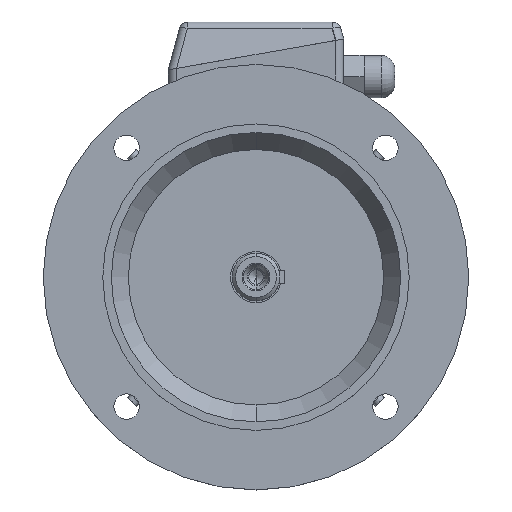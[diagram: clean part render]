
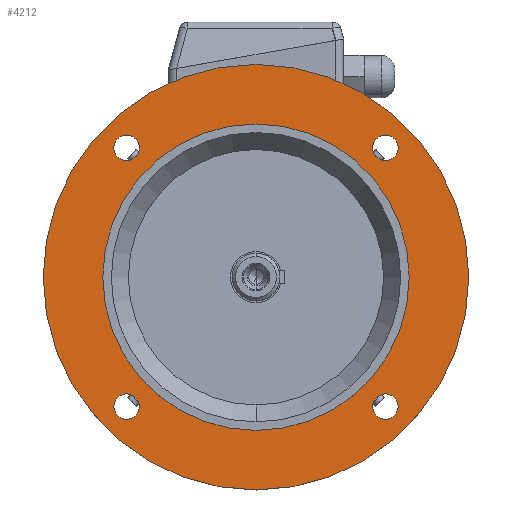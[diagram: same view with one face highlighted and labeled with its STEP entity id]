
A CAD part, top view. The second image highlights one B-rep face of the part: STEP entity #4212.
In plain terms, the highlighted planar face has unit normal (0, 0, 1).
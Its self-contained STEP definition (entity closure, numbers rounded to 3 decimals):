
#29 = FACE_BOUND ( 'NONE', #3948, .T. ) ;
#30 = FACE_BOUND ( 'NONE', #9210, .T. ) ;
#31 = FACE_BOUND ( 'NONE', #8827, .T. ) ;
#32 = FACE_BOUND ( 'NONE', #8430, .T. ) ;
#33 = FACE_BOUND ( 'NONE', #10246, .T. ) ;
#34 = FACE_OUTER_BOUND ( 'NONE', #9827, .T. ) ;
#35 = PLANE ( 'NONE',  #36 ) ;
#36 = AXIS2_PLACEMENT_3D ( 'NONE', #37, #38, #40 ) ;
#37 = CARTESIAN_POINT ( 'NONE',  ( 0., 125., 45. ) ) ;
#38 = DIRECTION ( 'NONE',  ( 0., 0., 1. ) ) ;
#40 = DIRECTION ( 'NONE',  ( 0., -1., 0. ) ) ;
#152 = CARTESIAN_POINT ( 'NONE',  ( -68.514, 76.014, 45. ) ) ;
#237 = CIRCLE ( 'NONE', #238, 7.5 ) ;
#238 = AXIS2_PLACEMENT_3D ( 'NONE', #239, #240, #241 ) ;
#239 = CARTESIAN_POINT ( 'NONE',  ( -76.014, 76.014, 45. ) ) ;
#240 = DIRECTION ( 'NONE',  ( 0., 0., 1. ) ) ;
#241 = DIRECTION ( 'NONE',  ( 1., 0., 0. ) ) ;
#268 = CARTESIAN_POINT ( 'NONE',  ( 0., 90., 45. ) ) ;
#361 = CIRCLE ( 'NONE', #362, 90. ) ;
#362 = AXIS2_PLACEMENT_3D ( 'NONE', #363, #367, #368 ) ;
#363 = CARTESIAN_POINT ( 'NONE',  ( 0., 0., 45. ) ) ;
#367 = DIRECTION ( 'NONE',  ( 0., 0., -1. ) ) ;
#368 = DIRECTION ( 'NONE',  ( 0., 1., 0. ) ) ;
#709 = CARTESIAN_POINT ( 'NONE',  ( -83.514, 76.014, 45. ) ) ;
#833 = CARTESIAN_POINT ( 'NONE',  ( 0., -90., 45. ) ) ;
#895 = CIRCLE ( 'NONE', #896, 125. ) ;
#896 = AXIS2_PLACEMENT_3D ( 'NONE', #897, #898, #899 ) ;
#897 = CARTESIAN_POINT ( 'NONE',  ( 0., 0., 45. ) ) ;
#898 = DIRECTION ( 'NONE',  ( 0., 0., -1. ) ) ;
#899 = DIRECTION ( 'NONE',  ( 0., 1., 0. ) ) ;
#2375 = CARTESIAN_POINT ( 'NONE',  ( 83.514, 76.014, 45. ) ) ;
#2651 = CIRCLE ( 'NONE', #2652, 7.5 ) ;
#2652 = AXIS2_PLACEMENT_3D ( 'NONE', #2653, #2654, #2655 ) ;
#2653 = CARTESIAN_POINT ( 'NONE',  ( 76.014, 76.014, 45. ) ) ;
#2654 = DIRECTION ( 'NONE',  ( 0., 0., 1. ) ) ;
#2655 = DIRECTION ( 'NONE',  ( 1., 0., 0. ) ) ;
#3519 = CARTESIAN_POINT ( 'NONE',  ( -68.514, -76.014, 45. ) ) ;
#3779 = CIRCLE ( 'NONE', #3780, 7.5 ) ;
#3780 = AXIS2_PLACEMENT_3D ( 'NONE', #3781, #3782, #3783 ) ;
#3781 = CARTESIAN_POINT ( 'NONE',  ( -76.014, -76.014, 45. ) ) ;
#3782 = DIRECTION ( 'NONE',  ( 0., 0., 1. ) ) ;
#3783 = DIRECTION ( 'NONE',  ( 1., 0., 0. ) ) ;
#3948 = EDGE_LOOP ( 'NONE', ( #9473, #9262 ) ) ;
#4087 = CIRCLE ( 'NONE', #4088, 7.5 ) ;
#4088 = AXIS2_PLACEMENT_3D ( 'NONE', #4089, #4090, #4091 ) ;
#4089 = CARTESIAN_POINT ( 'NONE',  ( 76.014, -76.014, 45. ) ) ;
#4090 = DIRECTION ( 'NONE',  ( 0., 0., 1. ) ) ;
#4091 = DIRECTION ( 'NONE',  ( 1., 0., 0. ) ) ;
#4212 = ADVANCED_FACE ( 'NONE', ( #29, #30, #31, #32, #33, #34 ), #35, .T. ) ;
#4384 = VERTEX_POINT ( 'NONE', #152 ) ;
#4585 = CARTESIAN_POINT ( 'NONE',  ( -83.514, -76.014, 45. ) ) ;
#4624 = EDGE_CURVE ( 'NONE', #5616, #4384, #237, .T. ) ;
#4649 = VERTEX_POINT ( 'NONE', #268 ) ;
#4892 = EDGE_CURVE ( 'NONE', #4649, #5878, #361, .T. ) ;
#5078 = CARTESIAN_POINT ( 'NONE',  ( 83.514, -76.014, 45. ) ) ;
#5102 = CIRCLE ( 'NONE', #5103, 7.5 ) ;
#5103 = AXIS2_PLACEMENT_3D ( 'NONE', #5104, #5105, #5106 ) ;
#5104 = CARTESIAN_POINT ( 'NONE',  ( -76.014, -76.014, 45. ) ) ;
#5105 = DIRECTION ( 'NONE',  ( 0., 0., 1. ) ) ;
#5106 = DIRECTION ( 'NONE',  ( 1., 0., 0. ) ) ;
#5282 = CARTESIAN_POINT ( 'NONE',  ( 0., -125., 45. ) ) ;
#5392 = CARTESIAN_POINT ( 'NONE',  ( 0., 125., 45. ) ) ;
#5487 = CIRCLE ( 'NONE', #5488, 125. ) ;
#5488 = AXIS2_PLACEMENT_3D ( 'NONE', #5489, #5490, #5491 ) ;
#5489 = CARTESIAN_POINT ( 'NONE',  ( 0., 0., 45. ) ) ;
#5490 = DIRECTION ( 'NONE',  ( 0., 0., -1. ) ) ;
#5491 = DIRECTION ( 'NONE',  ( 0., 1., 0. ) ) ;
#5616 = VERTEX_POINT ( 'NONE', #709 ) ;
#5878 = VERTEX_POINT ( 'NONE', #833 ) ;
#5904 = CIRCLE ( 'NONE', #5905, 7.5 ) ;
#5905 = AXIS2_PLACEMENT_3D ( 'NONE', #5906, #5907, #5908 ) ;
#5906 = CARTESIAN_POINT ( 'NONE',  ( -76.014, 76.014, 45. ) ) ;
#5907 = DIRECTION ( 'NONE',  ( 0., 0., 1. ) ) ;
#5908 = DIRECTION ( 'NONE',  ( 1., 0., 0. ) ) ;
#5978 = EDGE_CURVE ( 'NONE', #9079, #9136, #895, .T. ) ;
#6235 = CIRCLE ( 'NONE', #6236, 7.5 ) ;
#6236 = AXIS2_PLACEMENT_3D ( 'NONE', #6237, #6238, #6239 ) ;
#6237 = CARTESIAN_POINT ( 'NONE',  ( 76.014, -76.014, 45. ) ) ;
#6238 = DIRECTION ( 'NONE',  ( 0., 0., 1. ) ) ;
#6239 = DIRECTION ( 'NONE',  ( 1., 0., 0. ) ) ;
#6423 = CARTESIAN_POINT ( 'NONE',  ( 68.514, 76.014, 45. ) ) ;
#6659 = CARTESIAN_POINT ( 'NONE',  ( 68.514, -76.014, 45. ) ) ;
#6985 = CIRCLE ( 'NONE', #6986, 90. ) ;
#6986 = AXIS2_PLACEMENT_3D ( 'NONE', #6987, #6988, #6989 ) ;
#6987 = CARTESIAN_POINT ( 'NONE',  ( 0., 0., 45. ) ) ;
#6988 = DIRECTION ( 'NONE',  ( 0., 0., -1. ) ) ;
#6989 = DIRECTION ( 'NONE',  ( 0., 1., 0. ) ) ;
#8166 = CIRCLE ( 'NONE', #8167, 7.5 ) ;
#8167 = AXIS2_PLACEMENT_3D ( 'NONE', #8168, #8169, #8170 ) ;
#8168 = CARTESIAN_POINT ( 'NONE',  ( 76.014, 76.014, 45. ) ) ;
#8169 = DIRECTION ( 'NONE',  ( 0., 0., 1. ) ) ;
#8170 = DIRECTION ( 'NONE',  ( 1., 0., 0. ) ) ;
#8430 = EDGE_LOOP ( 'NONE', ( #10512, #10307 ) ) ;
#8498 = ORIENTED_EDGE ( 'NONE', *, *, #9534, .F. ) ;
#8504 = VERTEX_POINT ( 'NONE', #3519 ) ;
#8552 = EDGE_CURVE ( 'NONE', #8761, #8504, #3779, .T. ) ;
#8626 = EDGE_CURVE ( 'NONE', #8991, #9736, #4087, .T. ) ;
#8712 = ORIENTED_EDGE ( 'NONE', *, *, #8626, .F. ) ;
#8761 = VERTEX_POINT ( 'NONE', #4585 ) ;
#8827 = EDGE_LOOP ( 'NONE', ( #8712, #8498 ) ) ;
#8882 = ORIENTED_EDGE ( 'NONE', *, *, #8552, .F. ) ;
#8991 = VERTEX_POINT ( 'NONE', #5078 ) ;
#9006 = EDGE_CURVE ( 'NONE', #8504, #8761, #5102, .T. ) ;
#9079 = VERTEX_POINT ( 'NONE', #5282 ) ;
#9094 = ORIENTED_EDGE ( 'NONE', *, *, #9006, .F. ) ;
#9136 = VERTEX_POINT ( 'NONE', #5392 ) ;
#9182 = EDGE_CURVE ( 'NONE', #9136, #9079, #5487, .T. ) ;
#9210 = EDGE_LOOP ( 'NONE', ( #9094, #8882 ) ) ;
#9262 = ORIENTED_EDGE ( 'NONE', *, *, #4624, .F. ) ;
#9383 = EDGE_CURVE ( 'NONE', #4384, #5616, #5904, .T. ) ;
#9473 = ORIENTED_EDGE ( 'NONE', *, *, #9383, .F. ) ;
#9534 = EDGE_CURVE ( 'NONE', #9736, #8991, #6235, .T. ) ;
#9599 = ORIENTED_EDGE ( 'NONE', *, *, #5978, .F. ) ;
#9621 = VERTEX_POINT ( 'NONE', #6423 ) ;
#9711 = ORIENTED_EDGE ( 'NONE', *, *, #9182, .F. ) ;
#9736 = VERTEX_POINT ( 'NONE', #6659 ) ;
#9827 = EDGE_LOOP ( 'NONE', ( #9711, #9599 ) ) ;
#9880 = EDGE_CURVE ( 'NONE', #5878, #4649, #6985, .T. ) ;
#9970 = ORIENTED_EDGE ( 'NONE', *, *, #9880, .T. ) ;
#10086 = ORIENTED_EDGE ( 'NONE', *, *, #4892, .T. ) ;
#10246 = EDGE_LOOP ( 'NONE', ( #10086, #9970 ) ) ;
#10307 = ORIENTED_EDGE ( 'NONE', *, *, #10493, .F. ) ;
#10431 = EDGE_CURVE ( 'NONE', #10443, #9621, #8166, .T. ) ;
#10443 = VERTEX_POINT ( 'NONE', #2375 ) ;
#10493 = EDGE_CURVE ( 'NONE', #9621, #10443, #2651, .T. ) ;
#10512 = ORIENTED_EDGE ( 'NONE', *, *, #10431, .F. ) ;
